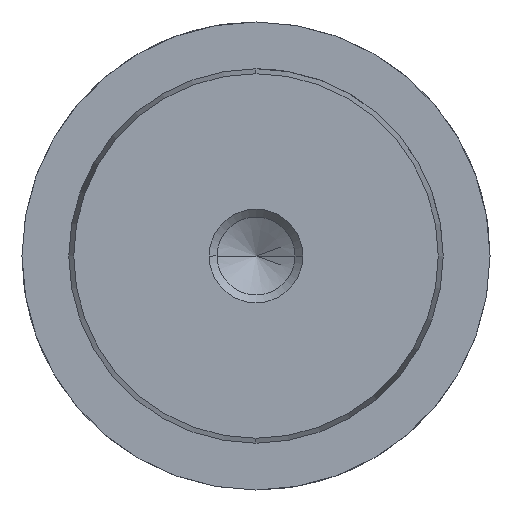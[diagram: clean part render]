
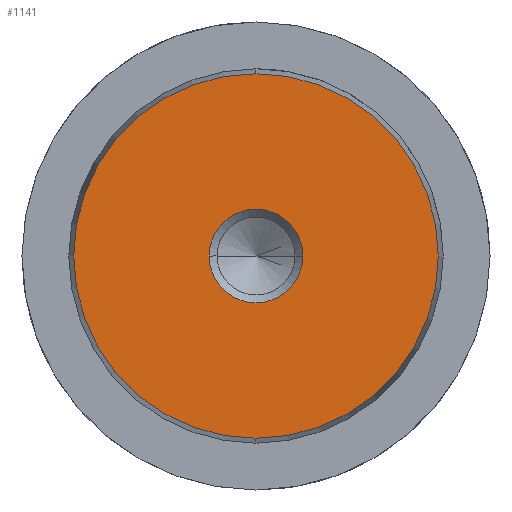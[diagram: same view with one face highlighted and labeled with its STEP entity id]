
A CAD part, left-side view. The second image highlights one B-rep face of the part: STEP entity #1141.
In plain terms, the highlighted planar face has unit normal (-1, 0, 0).
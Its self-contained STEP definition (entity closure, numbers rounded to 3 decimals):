
#1055=CARTESIAN_POINT('Vertex',(0.,0.,-15.578)) ;
#1058=CARTESIAN_POINT('Axis2P3D Location',(0.,0.,0.)) ;
#1062=CARTESIAN_POINT('Vertex',(0.,15.578,0.)) ;
#1065=CARTESIAN_POINT('Axis2P3D Location',(0.,0.,0.)) ;
#1069=CARTESIAN_POINT('Vertex',(0.,0.,15.578)) ;
#1091=CARTESIAN_POINT('Axis2P3D Location',(0.,0.,0.)) ;
#1095=CARTESIAN_POINT('Vertex',(0.,-15.578,0.)) ;
#1098=CARTESIAN_POINT('Axis2P3D Location',(0.,0.,0.)) ;
#1112=CARTESIAN_POINT('Axis2P3D Location',(0.,0.,0.)) ;
#1123=CARTESIAN_POINT('Axis2P3D Location',(0.,0.,0.)) ;
#1127=CARTESIAN_POINT('Vertex',(0.,4.,0.)) ;
#1129=CARTESIAN_POINT('Vertex',(0.,-4.,0.)) ;
#1132=CARTESIAN_POINT('Axis2P3D Location',(0.,0.,0.)) ;
#1059=DIRECTION('Axis2P3D Direction',(1.,-0.,0.)) ;
#1066=DIRECTION('Axis2P3D Direction',(1.,-0.,0.)) ;
#1092=DIRECTION('Axis2P3D Direction',(1.,0.,-0.)) ;
#1099=DIRECTION('Axis2P3D Direction',(1.,0.,-0.)) ;
#1113=DIRECTION('Axis2P3D Direction',(1.,0.,-0.)) ;
#1114=DIRECTION('Axis2P3D XDirection',(-0.,0.,-1.)) ;
#1124=DIRECTION('Axis2P3D Direction',(1.,0.,-0.)) ;
#1133=DIRECTION('Axis2P3D Direction',(1.,0.,-0.)) ;
#1060=AXIS2_PLACEMENT_3D('Circle Axis2P3D',#1058,#1059,$) ;
#1067=AXIS2_PLACEMENT_3D('Circle Axis2P3D',#1065,#1066,$) ;
#1093=AXIS2_PLACEMENT_3D('Circle Axis2P3D',#1091,#1092,$) ;
#1100=AXIS2_PLACEMENT_3D('Circle Axis2P3D',#1098,#1099,$) ;
#1115=AXIS2_PLACEMENT_3D('Plane Axis2P3D',#1112,#1113,#1114) ;
#1125=AXIS2_PLACEMENT_3D('Circle Axis2P3D',#1123,#1124,$) ;
#1134=AXIS2_PLACEMENT_3D('Circle Axis2P3D',#1132,#1133,$) ;
#1118=ORIENTED_EDGE('',*,*,#1064,.F.) ;
#1119=ORIENTED_EDGE('',*,*,#1102,.F.) ;
#1120=ORIENTED_EDGE('',*,*,#1097,.F.) ;
#1121=ORIENTED_EDGE('',*,*,#1071,.F.) ;
#1138=ORIENTED_EDGE('',*,*,#1131,.T.) ;
#1139=ORIENTED_EDGE('',*,*,#1136,.T.) ;
#1140=FACE_BOUND('',#1137,.T.) ;
#1141=ADVANCED_FACE('719-32x180',(#1122,#1140),#1116,.F.) ;
#1061=CIRCLE('generated circle',#1060,15.578) ;
#1068=CIRCLE('generated circle',#1067,15.578) ;
#1094=CIRCLE('generated circle',#1093,15.578) ;
#1101=CIRCLE('generated circle',#1100,15.578) ;
#1126=CIRCLE('generated circle',#1125,4.) ;
#1135=CIRCLE('generated circle',#1134,4.) ;
#1064=EDGE_CURVE('',#1056,#1063,#1061,.T.) ;
#1071=EDGE_CURVE('',#1063,#1070,#1068,.T.) ;
#1097=EDGE_CURVE('',#1070,#1096,#1094,.T.) ;
#1102=EDGE_CURVE('',#1096,#1056,#1101,.T.) ;
#1131=EDGE_CURVE('',#1128,#1130,#1126,.T.) ;
#1136=EDGE_CURVE('',#1130,#1128,#1135,.T.) ;
#1117=EDGE_LOOP('',(#1118,#1119,#1120,#1121)) ;
#1137=EDGE_LOOP('',(#1138,#1139)) ;
#1122=FACE_OUTER_BOUND('',#1117,.T.) ;
#1116=PLANE('Plane',#1115) ;
#1056=VERTEX_POINT('',#1055) ;
#1063=VERTEX_POINT('',#1062) ;
#1070=VERTEX_POINT('',#1069) ;
#1096=VERTEX_POINT('',#1095) ;
#1128=VERTEX_POINT('',#1127) ;
#1130=VERTEX_POINT('',#1129) ;
